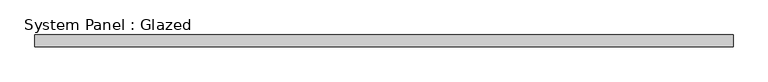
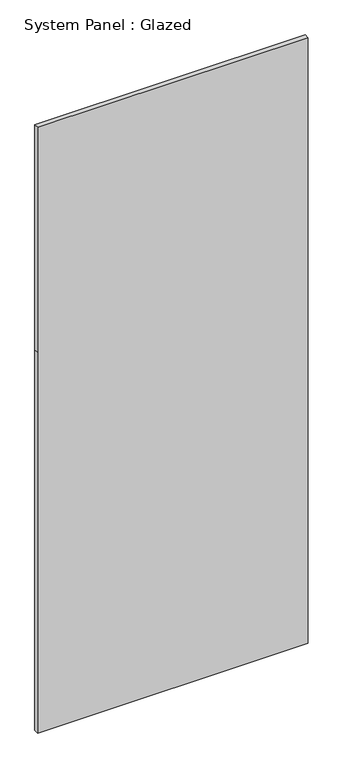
"""IFC4 building model written with IfcOpenShell, lengths in millimetres: plate geometry, System Panel : Glazed."""

from ifc_helpers import new_model, si_unit, frame, origin, place, context, project, spatial, polyline, outline, extrude, source, transform, mapped, element, save


def system_panel_glazed_12b11880(model_context):
    return source(origin(), model_context, "Body", "SweptSolid", [
        extrude(outline(polyline([(0.0, -740.0), (0.0, 740.0), (2200.0, 740.0), (3500.0, 740.0), (3500.0, -740.0), (2200.0, -740.0), (0.0, -740.0)])), frame((0.0, -49.5, 0.0), z_axis=(0.0, 1.0, 0.0), x_axis=(0.0, 0.0, 1.0)), (0.0, 0.0, 1.0), 25.0),
    ])


if __name__ == "__main__":
    model = new_model("IFC4")
    model_context = context("Model", 3, world=origin())
    ifc_project = project(units=[si_unit("LENGTHUNIT", "METRE", prefix="MILLI")], contexts=[model_context])
    site = spatial("IfcSite", under=ifc_project)
    building = spatial("IfcBuilding", under=site)
    placement = place(None, origin())
    system_panel_glazed_shape = system_panel_glazed_12b11880(model_context)
    element("IfcPlate", 1, ObjectType="System Panel : Glazed", at=placement, inside=building, context=model_context, shape_type="MappedRepresentation", body=[
        mapped(system_panel_glazed_shape, transform((0.0, 0.0, 0.0), x_axis=(1.0, 0.0, 0.0), y_axis=(0.0, 1.0, 0.0), z_axis=(0.0, 0.0, 1.0))),
    ])
    save(model, "model.ifc")
